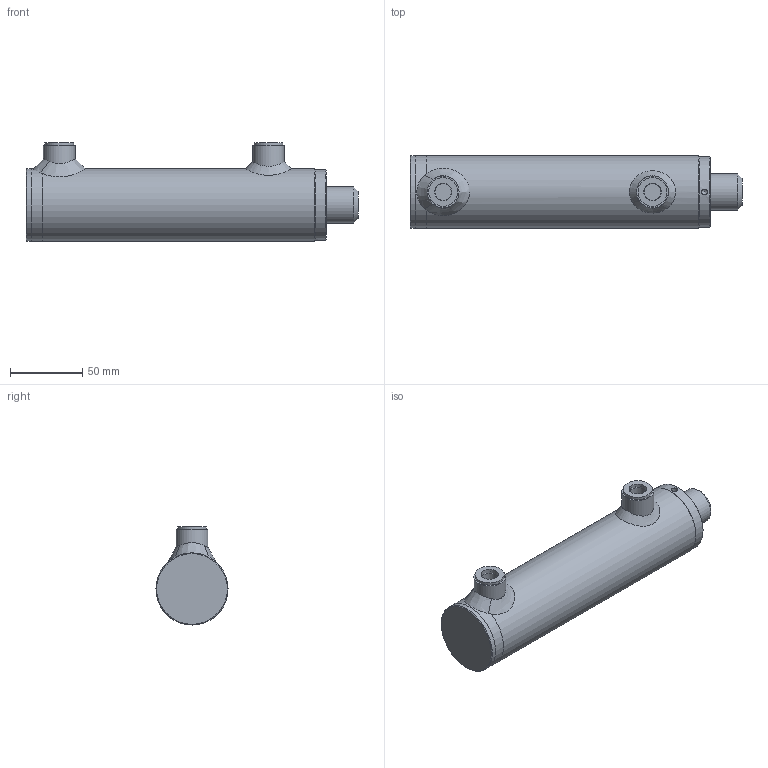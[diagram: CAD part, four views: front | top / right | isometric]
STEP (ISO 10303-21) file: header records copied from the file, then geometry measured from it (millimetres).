
FILE_DESCRIPTION( ( 'Unknown' ), '1' );
FILE_NAME( 'E:/LIBRERIA_3d/CILINDRI/HM0/HM01250100.stp', 'Unknown', ( 'Unknown' ), ( 'Unknown' ), 'PSStep 17.0.49', 'Unknown', ' ' );
FILE_SCHEMA( ( 'AUTOMOTIVE_DESIGN { 1 0 10303 214 1 1 1 1 }' ) );
Length unit declared in the file: millimetre
Products named in the file (18): CG05004025; CT00040015; STL1500100-oa4; Saldatura d'angolo 1-oa2; CBS0400000; FTM1500100-oa3; Assem1; Saldatura con preparazione 1-oa0; Saldatura d'angolo 1-oa1; CF00040050; CDA0001415; APG0400000; SBL2510100
Assembly tree (15 placements, depth 3):
  Saldatura d'angolo 1-oa2
  Saldatura d'angolo 1-oa2
  Assem1
    Saldatura con preparazione 1-oa0
    Saldatura con preparazione 1-oa0
    CF00040050
    CDA0001415
    CBS0400000
    APG0400000  x2
    SBL2510100
    CT00040015
      CT00040015
    CG05004025
      CG05004025
    STL1500100-oa4
      CBS0400000
      FTM1500100-oa3
  Saldatura d'angolo 1-oa1
  Saldatura d'angolo 1-oa1
Bounding box: 230 x 50 x 68 mm (x, y, z)
Volume: 321506.7 mm3; surface area: 121362.9 mm2
Topology: 16 solids, 16 shells, 194 faces, 391 edges, 240 vertices
Faces by surface type: plane 56, cylinder 54, cone 34, torus 32, bspline 18
Full cylindrical faces by diameter (mm): 4 x4, 4.25 x1, 7 x2, 11.445 x2, 12 x2, 13.1 x2, 14 x2, 15 x3, 19.5 x1, 20 x2, 22 x3, 25 x4, 27 x1, 28 x1, 30 x1, 33 x1, 33.6 x1, 35 x1, 35.4 x2, 38.5 x2, 39.9 x1, 40 x1, 40.3 x1, 40.5 x1, 40.6 x1, 41 x1, 42 x3, 42.5 x1, 44 x1, 49 x1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
Entity records: 8484 total; most frequent: CARTESIAN_POINT 3786, DIRECTION 694, ORIENTED_EDGE 424, AXIS2_PLACEMENT_3D 335, EDGE_LOOP 334, FACE_OUTER_BOUND 268, EDGE_CURVE 212, VERTEX_POINT 191
